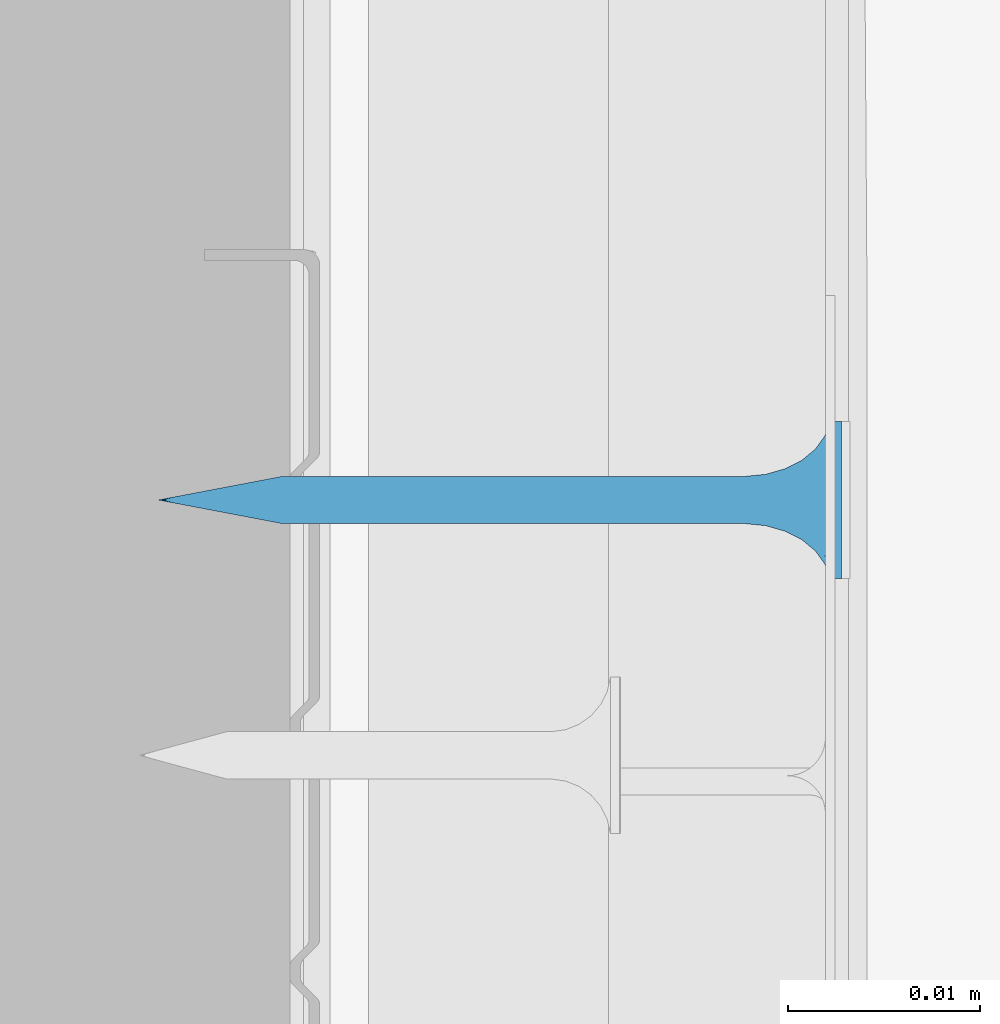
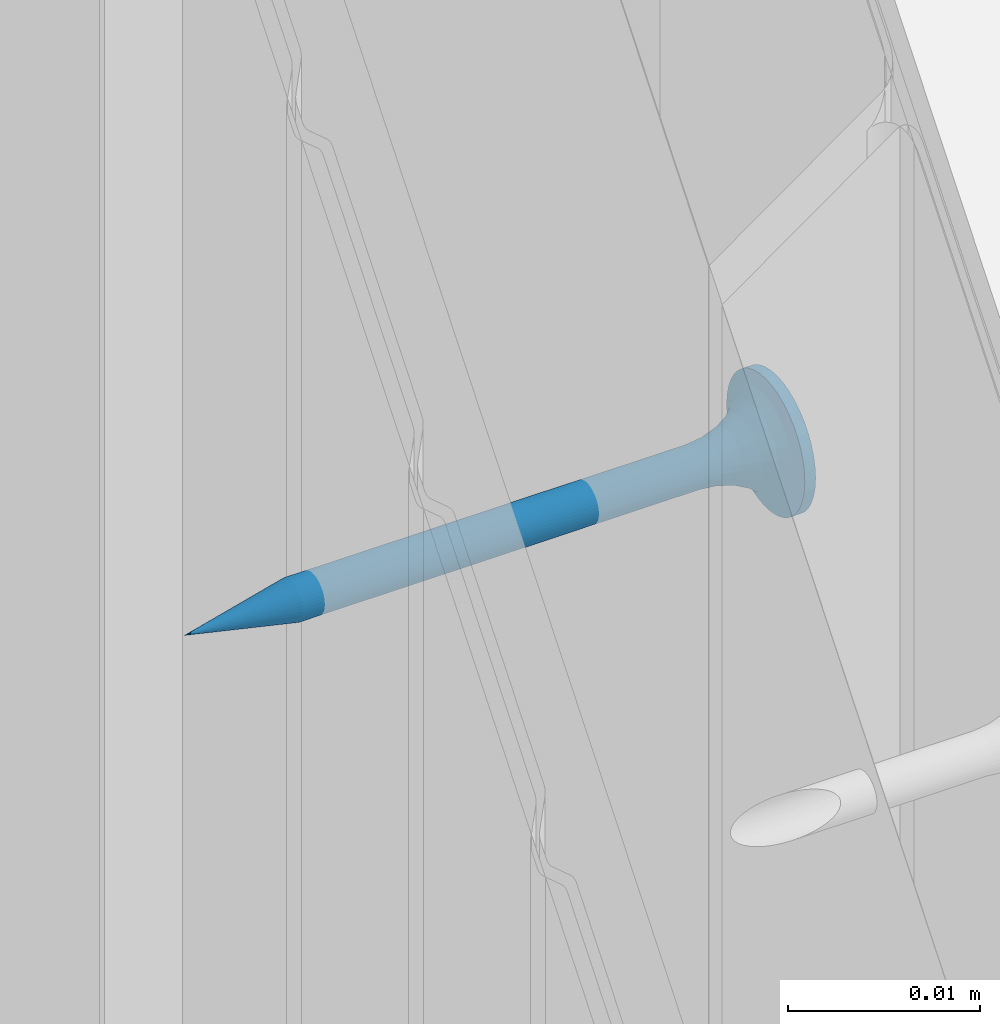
# One storey, part 28 of 92: 1 wall.
"""IFC2X3 building model written with IfcOpenShell, lengths in millimetres."""

from ifc_helpers import new_model, si_unit, frame, origin_with_axes, place, context, subcontext, project, spatial, faceted_brep, material, type_object, element, save


model = new_model("IFC2X3")

# Units and contexts
model_context = context("Model", 3, world=origin_with_axes())
body_context = subcontext(model_context, "Body", "Model", "MODEL_VIEW")
ifc_project = project(units=[si_unit("LENGTHUNIT", "METRE", prefix="MILLI"), si_unit("AREAUNIT", "SQUARE_METRE"), si_unit("VOLUMEUNIT", "CUBIC_METRE")], contexts=[model_context])

# Site, building, storey
site_placement = place(None, origin_with_axes())
site = spatial("IfcSite", under=ifc_project, at=site_placement, Name="Default Site", CompositionType="ELEMENT")
building_placement = place(site_placement, origin_with_axes())
building = spatial("IfcBuilding", under=site, at=building_placement, Name="Default Building", CompositionType="ELEMENT")
storey_placement = place(building_placement, origin_with_axes())
storey = spatial("IfcBuildingStorey", under=building, at=storey_placement, Name="Default Building Storey", CompositionType="ELEMENT", Elevation=0.0)

# Wall
ifc_material = material(Name="Default")
wall_type = type_object("IfcWallType", Name="Wkręt RIGIPS TN 35#41", PredefinedType="NOTDEFINED")
wall_placement = place(storey_placement, frame((-4679.6018790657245, 888.4383277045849, -153.3055844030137), z_axis=(0.0, 0.0, 1.0), x_axis=(4.0245584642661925e-16, 1.0, 0.0)))
element("IfcWall", 1, at=wall_placement, inside=storey, type_object=wall_type, material=ifc_material, Name="Wkręt RIGIPS TN 35", context=body_context, shape_type="Brep", body=[
    faceted_brep([(-141.48753293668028, -4832.598052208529, 555.1619773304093), (-141.48753293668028, -4833.259714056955, 555.1619773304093), (-141.5377465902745, -4833.259714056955, 555.8000000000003), (-141.5377465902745, -4832.598052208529, 555.8000000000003), (-141.33812900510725, -4832.598052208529, 554.5396649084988), (-141.33812900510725, -4833.259714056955, 554.5396649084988), (-141.0932132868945, -4832.598052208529, 553.948386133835), (-141.0932132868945, -4833.259714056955, 553.948386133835), (-140.75881656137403, -4832.598052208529, 553.4027002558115), (-140.75881656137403, -4833.259714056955, 553.4027002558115), (-140.3431726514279, -4833.259714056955, 552.9160436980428), (-140.45417279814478, -4832.598052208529, 553.0314906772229), (-139.8565160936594, -4833.259714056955, 552.5003997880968), (-140.10800974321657, -4832.598052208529, 552.6986613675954), (-139.72512626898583, -4832.598052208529, 552.4088260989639), (-139.31083021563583, -4833.259714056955, 552.1660030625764), (-139.31083021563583, -4832.598052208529, 552.1660030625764), (-138.71955144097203, -4833.259714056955, 551.9210873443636), (-138.87086516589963, -4832.598052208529, 551.9735585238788), (-138.41133029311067, -4832.598052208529, 551.8341602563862), (-138.09723901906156, -4833.259714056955, 551.7716834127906), (-137.9385961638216, -4832.598052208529, 551.74974052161), (-137.45921634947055, -4833.259714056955, 551.7214697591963), (-137.45921634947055, -4832.598052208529, 551.7214697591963), (-136.82119367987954, -4832.598052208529, 551.7716834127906), (-136.82119367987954, -4833.259714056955, 551.7716834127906), (-136.19888125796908, -4832.598052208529, 551.9210873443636), (-136.19888125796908, -4833.259714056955, 551.9210873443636), (-135.60760248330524, -4832.598052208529, 552.1660030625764), (-135.60760248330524, -4833.259714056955, 552.1660030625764), (-135.0619166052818, -4832.598052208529, 552.5003997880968), (-135.0619166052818, -4833.259714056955, 552.5003997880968), (-134.5752600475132, -4832.598052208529, 552.9160436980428), (-134.5752600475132, -4833.259714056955, 552.9160436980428), (-134.15961613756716, -4832.598052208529, 553.4027002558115), (-134.15961613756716, -4833.259714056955, 553.4027002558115), (-133.8252194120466, -4832.598052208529, 553.948386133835), (-133.8252194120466, -4833.259714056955, 553.948386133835), (-133.58030369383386, -4832.598052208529, 554.5396649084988), (-133.58030369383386, -4833.259714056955, 554.5396649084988), (-133.3806861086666, -4833.259714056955, 555.8000000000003), (-133.3806861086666, -4832.598052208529, 555.8000000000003), (-133.4308997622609, -4832.598052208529, 556.4380226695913), (-133.4308997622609, -4833.259714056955, 556.4380226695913), (-133.4308997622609, -4833.259714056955, 555.1619773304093), (-133.4308997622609, -4832.598052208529, 555.1619773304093), (-133.58030369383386, -4832.598052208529, 557.0603350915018), (-133.58030369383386, -4833.259714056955, 557.0603350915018), (-133.8252194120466, -4832.598052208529, 557.6516138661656), (-133.8252194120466, -4833.259714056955, 557.6516138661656), (-134.15961613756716, -4832.598052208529, 558.1972997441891), (-134.15961613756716, -4833.259714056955, 558.1972997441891), (-134.5752600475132, -4832.598052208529, 558.6839563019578), (-134.5752600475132, -4833.259714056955, 558.6839563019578), (-135.0619166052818, -4832.598052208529, 559.0996002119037), (-135.0619166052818, -4833.259714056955, 559.0996002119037), (-135.60760248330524, -4832.598052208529, 559.4339969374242), (-135.60760248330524, -4833.259714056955, 559.4339969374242), (-136.19888125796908, -4832.598052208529, 559.6789126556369), (-136.19888125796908, -4833.259714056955, 559.6789126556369), (-136.82119367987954, -4832.598052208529, 559.82831658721), (-136.82119367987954, -4833.259714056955, 559.82831658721), (-137.45921634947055, -4832.598052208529, 559.8785302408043), (-137.45921634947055, -4833.259714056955, 559.8785302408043), (-138.09723901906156, -4832.598052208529, 559.82831658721), (-138.09723901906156, -4833.259714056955, 559.82831658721), (-138.71955144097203, -4832.598052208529, 559.6789126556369), (-138.71955144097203, -4833.259714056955, 559.6789126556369), (-139.31083021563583, -4832.598052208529, 559.4339969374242), (-139.31083021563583, -4833.259714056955, 559.4339969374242), (-139.8565160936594, -4832.598052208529, 559.0996002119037), (-139.8565160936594, -4833.259714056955, 559.0996002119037), (-140.3431726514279, -4832.598052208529, 558.6839563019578), (-140.3431726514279, -4833.259714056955, 558.6839563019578), (-140.75881656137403, -4832.598052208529, 558.1972997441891), (-140.75881656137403, -4833.259714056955, 558.1972997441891), (-141.0932132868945, -4832.598052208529, 557.6516138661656), (-141.0932132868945, -4833.259714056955, 557.6516138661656), (-141.33812900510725, -4832.598052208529, 557.0603350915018), (-141.33812900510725, -4833.259714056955, 557.0603350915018), (-141.48753293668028, -4832.598052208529, 556.4380226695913), (-141.48753293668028, -4833.259714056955, 556.4380226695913), (-137.65172779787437, -4828.206294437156, 554.5845305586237), (-137.45921634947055, -4828.206294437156, 554.5693795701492), (-137.806061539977, -4829.281368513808, 554.5055561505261), (-137.45921634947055, -4829.281368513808, 554.4598930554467), (-137.8394989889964, -4828.206294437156, 554.6296104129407), (-138.12926982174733, -4829.281368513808, 554.6394333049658), (-138.0179063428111, -4828.206294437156, 554.7035091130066), (-138.18255689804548, -4828.206294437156, 554.8044072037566), (-138.40681506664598, -4829.281368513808, 554.8524012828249), (-138.32939643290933, -4828.206294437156, 554.9298199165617), (-138.4548091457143, -4828.206294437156, 555.0766594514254), (-138.61978304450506, -4829.281368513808, 555.1299465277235), (-138.55570723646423, -4828.206294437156, 555.2413100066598), (-138.75366019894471, -4829.281368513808, 555.4531548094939), (-138.62960593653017, -4828.206294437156, 555.4197173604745), (-138.67468579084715, -4828.206294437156, 555.6074885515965), (-138.79932329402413, -4829.281368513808, 555.7999999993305), (-138.68983677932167, -4828.206294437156, 555.8000000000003), (-138.67468579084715, -4828.206294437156, 555.9925114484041), (-138.75366019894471, -4829.281368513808, 556.1468451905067), (-138.62960593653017, -4828.206294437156, 556.1802826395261), (-138.61978304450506, -4829.281368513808, 556.4700534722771), (-138.55570723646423, -4828.206294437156, 556.3586899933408), (-138.4548091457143, -4828.206294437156, 556.5233405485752), (-138.40681506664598, -4829.281368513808, 556.7475987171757), (-138.32939643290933, -4828.206294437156, 556.6701800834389), (-138.18255689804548, -4828.206294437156, 556.795592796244), (-138.12926982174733, -4829.281368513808, 556.9605666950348), (-138.0179063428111, -4828.206294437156, 556.896490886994), (-137.806061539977, -4829.281368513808, 557.0944438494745), (-137.8394989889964, -4828.206294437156, 556.9703895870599), (-137.65172779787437, -4828.206294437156, 557.0154694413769), (-137.45921634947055, -4829.281368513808, 557.1401069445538), (-137.45921634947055, -4828.206294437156, 557.0306204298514), (-137.26670490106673, -4828.206294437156, 557.0154694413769), (-137.11237115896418, -4829.281368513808, 557.0944438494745), (-137.0789337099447, -4828.206294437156, 556.9703895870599), (-136.78916287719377, -4829.281368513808, 556.9605666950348), (-136.9005263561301, -4828.206294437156, 556.896490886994), (-136.73587580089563, -4828.206294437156, 556.795592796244), (-136.51161763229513, -4829.281368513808, 556.7475987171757), (-136.58903626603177, -4828.206294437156, 556.6701800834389), (-136.4636235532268, -4828.206294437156, 556.5233405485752), (-136.29864965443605, -4829.281368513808, 556.4700534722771), (-136.36272546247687, -4828.206294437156, 556.3586899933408), (-136.1647724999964, -4829.281368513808, 556.1468451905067), (-136.28882676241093, -4828.206294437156, 556.1802826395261), (-136.24374690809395, -4828.206294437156, 555.9925114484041), (-136.11910940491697, -4829.281368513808, 555.7999999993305), (-136.22859591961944, -4828.206294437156, 555.8000000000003), (-136.24374690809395, -4828.206294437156, 555.6074885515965), (-136.1647724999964, -4829.281368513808, 555.4531548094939), (-136.28882676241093, -4828.206294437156, 555.4197173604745), (-136.29864965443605, -4829.281368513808, 555.1299465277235), (-136.36272546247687, -4828.206294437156, 555.2413100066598), (-136.4636235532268, -4828.206294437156, 555.0766594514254), (-136.51161763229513, -4829.281368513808, 554.8524012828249), (-136.58903626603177, -4828.206294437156, 554.9298199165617), (-136.73587580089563, -4828.206294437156, 554.8044072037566), (-136.78916287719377, -4829.281368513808, 554.6394333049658), (-136.9005263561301, -4828.206294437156, 554.7035091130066), (-137.11237115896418, -4829.281368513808, 554.5055561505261), (-137.0789337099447, -4828.206294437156, 554.6296104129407), (-137.26670490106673, -4828.206294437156, 554.5845305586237), (-137.45921634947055, -4830.288222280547, 554.1737111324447), (-137.8801308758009, -4830.288222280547, 554.2291255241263), (-138.27236078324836, -4830.288222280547, 554.3915925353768), (-138.6091762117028, -4830.288222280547, 554.6500401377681), (-138.867623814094, -4830.288222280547, 554.9868555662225), (-139.0300908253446, -4830.288222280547, 555.37908547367), (-139.0855052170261, -4830.288222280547, 555.7999999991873), (-139.0300908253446, -4830.288222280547, 556.2209145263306), (-138.867623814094, -4830.288222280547, 556.6131444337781), (-138.6091762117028, -4830.288222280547, 556.9499598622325), (-138.27236078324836, -4830.288222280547, 557.2084074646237), (-137.8801308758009, -4830.288222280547, 557.3708744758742), (-137.45921634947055, -4830.288222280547, 557.4262888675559), (-137.03830182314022, -4830.288222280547, 557.3708744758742), (-136.64607191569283, -4830.288222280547, 557.2084074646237), (-136.30925648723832, -4830.288222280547, 556.9499598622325), (-136.0508088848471, -4830.288222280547, 556.6131444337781), (-135.88834187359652, -4830.288222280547, 556.2209145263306), (-135.832927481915, -4830.288222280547, 555.7999999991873), (-135.88834187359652, -4830.288222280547, 555.37908547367), (-136.0508088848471, -4830.288222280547, 554.9868555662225), (-136.30925648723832, -4830.288222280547, 554.6500401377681), (-136.64607191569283, -4830.288222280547, 554.3915925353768), (-137.03830182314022, -4830.288222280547, 554.2291255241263), (-137.45921634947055, -4831.168773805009, 553.7273430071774), (-137.99565943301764, -4831.168773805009, 553.7979670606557), (-138.49554484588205, -4831.168773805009, 554.0050264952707), (-138.9248060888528, -4831.168773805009, 554.334410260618), (-139.25418985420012, -4831.168773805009, 554.7636715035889), (-139.4612492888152, -4831.168773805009, 555.2635569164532), (-139.53187334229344, -4831.168773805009, 555.7999999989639), (-139.4612492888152, -4831.168773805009, 556.3364430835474), (-139.25418985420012, -4831.168773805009, 556.8363284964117), (-138.9248060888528, -4831.168773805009, 557.2655897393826), (-138.49554484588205, -4831.168773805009, 557.5949735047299), (-137.99565943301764, -4831.168773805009, 557.8020329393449), (-137.45921634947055, -4831.168773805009, 557.8726569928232), (-136.92277326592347, -4831.168773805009, 557.8020329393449), (-136.42288785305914, -4831.168773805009, 557.5949735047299), (-135.9936266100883, -4831.168773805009, 557.2655897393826), (-135.66424284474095, -4831.168773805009, 556.8363284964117), (-135.4571834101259, -4831.168773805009, 556.3364430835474), (-135.38655935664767, -4831.168773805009, 555.7999999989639), (-135.4571834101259, -4831.168773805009, 555.2635569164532), (-135.66424284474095, -4831.168773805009, 554.7636715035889), (-135.9936266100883, -4831.168773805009, 554.334410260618), (-136.42288785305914, -4831.168773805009, 554.0050264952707), (-136.92277326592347, -4831.168773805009, 553.7979670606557), (-137.45921634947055, -4831.872222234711, 553.1465392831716), (-138.14598252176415, -4831.872222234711, 553.2369539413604), (-138.78594670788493, -4831.872222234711, 553.5020355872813), (-139.33549641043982, -4831.872222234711, 553.923719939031), (-139.75718076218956, -4831.872222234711, 554.473269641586), (-140.02226240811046, -4831.872222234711, 555.1132338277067), (-140.11267706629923, -4831.872222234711, 555.7999999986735), (-140.02226240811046, -4831.872222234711, 556.4867661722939), (-139.75718076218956, -4831.872222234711, 557.1267303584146), (-139.33549641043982, -4831.872222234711, 557.6762800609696), (-138.78594670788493, -4831.872222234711, 558.0979644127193), (-138.14598252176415, -4831.872222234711, 558.3630460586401), (-137.45921634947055, -4831.872222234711, 558.453460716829), (-136.77245017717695, -4831.872222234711, 558.3630460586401), (-136.13248599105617, -4831.872222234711, 558.0979644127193), (-135.58293628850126, -4831.872222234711, 557.6762800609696), (-135.16125193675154, -4831.872222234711, 557.1267303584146), (-134.89617029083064, -4831.872222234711, 556.4867661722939), (-134.80575563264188, -4831.872222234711, 555.7999999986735), (-134.89617029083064, -4831.872222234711, 555.1132338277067), (-135.16125193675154, -4831.872222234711, 554.473269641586), (-135.58293628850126, -4831.872222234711, 553.923719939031), (-136.13248599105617, -4831.872222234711, 553.5020355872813), (-136.77245017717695, -4831.872222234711, 553.2369539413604), (-137.45921634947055, -4832.357990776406, 552.4648055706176), (-138.3224281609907, -4832.357990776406, 552.5784495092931), (-139.12681356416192, -4832.357990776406, 552.9116369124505), (-139.81755491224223, -4832.357990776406, 553.4416614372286), (-140.34757943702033, -4832.357990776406, 554.132402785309), (-140.6807668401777, -4832.357990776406, 554.9367881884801), (-140.7944107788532, -4832.357990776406, 555.7999999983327), (-140.6807668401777, -4832.357990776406, 556.6632118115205), (-140.34757943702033, -4832.357990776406, 557.4675972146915), (-139.81755491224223, -4832.357990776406, 558.158338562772), (-139.12681356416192, -4832.357990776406, 558.6883630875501), (-138.3224281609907, -4832.357990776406, 559.0215504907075), (-137.45921634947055, -4832.357990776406, 559.135194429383), (-136.5960045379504, -4832.357990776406, 559.0215504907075), (-135.79161913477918, -4832.357990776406, 558.6883630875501), (-135.10087778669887, -4832.357990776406, 558.158338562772), (-134.57085326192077, -4832.357990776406, 557.4675972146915), (-134.2376658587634, -4832.357990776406, 556.6632118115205), (-134.12402192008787, -4832.357990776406, 555.7999999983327), (-134.2376658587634, -4832.357990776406, 554.9367881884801), (-134.57085326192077, -4832.357990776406, 554.132402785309), (-135.10087778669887, -4832.357990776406, 553.4416614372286), (-135.79161913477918, -4832.357990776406, 552.9116369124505), (-136.5960045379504, -4832.357990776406, 552.5784495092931), (-138.67468579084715, -4804.0937578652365, 555.6074885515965), (-138.68983677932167, -4804.0937578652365, 555.8000000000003), (-138.62960593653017, -4804.0937578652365, 555.4197173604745), (-138.55570723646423, -4804.0937578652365, 555.2413100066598), (-138.4548091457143, -4804.0937578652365, 555.0766594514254), (-138.32939643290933, -4804.0937578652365, 554.9298199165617), (-138.18255689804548, -4804.0937578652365, 554.8044072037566), (-138.01790634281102, -4804.0937578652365, 554.7035091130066), (-137.8394989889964, -4804.0937578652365, 554.6296104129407), (-137.65172779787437, -4804.0937578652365, 554.5845305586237), (-137.45921634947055, -4804.0937578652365, 554.5693795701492), (-137.26670490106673, -4804.0937578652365, 554.5845305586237), (-137.0789337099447, -4804.0937578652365, 554.6296104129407), (-136.90052635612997, -4804.0937578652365, 554.7035091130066), (-136.73587580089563, -4804.0937578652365, 554.8044072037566), (-136.58903626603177, -4804.0937578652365, 554.9298199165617), (-136.4636235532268, -4804.0937578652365, 555.0766594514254), (-136.36272546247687, -4804.0937578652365, 555.2413100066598), (-136.28882676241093, -4804.0937578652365, 555.4197173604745), (-136.22859591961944, -4804.0937578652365, 555.8000000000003), (-136.24374690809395, -4804.0937578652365, 555.9925114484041), (-136.24374690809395, -4804.0937578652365, 555.6074885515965), (-136.28882676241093, -4804.0937578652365, 556.1802826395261), (-136.36272546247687, -4804.0937578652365, 556.3586899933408), (-136.4636235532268, -4804.0937578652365, 556.5233405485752), (-136.58903626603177, -4804.0937578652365, 556.6701800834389), (-136.73587580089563, -4804.0937578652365, 556.795592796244), (-136.90052635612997, -4804.0937578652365, 556.896490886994), (-137.0789337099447, -4804.0937578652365, 556.9703895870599), (-137.26670490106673, -4804.0937578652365, 557.0154694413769), (-137.45921634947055, -4804.0937578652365, 557.0306204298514), (-137.65172779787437, -4804.0937578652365, 557.0154694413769), (-137.8394989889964, -4804.0937578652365, 556.9703895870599), (-138.01790634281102, -4804.0937578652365, 556.896490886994), (-138.18255689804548, -4804.0937578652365, 556.795592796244), (-138.32939643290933, -4804.0937578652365, 556.6701800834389), (-138.4548091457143, -4804.0937578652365, 556.5233405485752), (-138.55570723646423, -4804.0937578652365, 556.3586899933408), (-138.62960593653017, -4804.0937578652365, 556.1802826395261), (-138.67468579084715, -4804.0937578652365, 555.9925114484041), (-137.45921634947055, -4797.627062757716, 555.8000000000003), (-139.95921629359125, -4833.259714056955, 555.2999999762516), (-139.95921629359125, -4833.259714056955, 556.300000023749), (-137.95921637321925, -4833.259714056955, 556.300000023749), (-137.95921637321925, -4833.259714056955, 558.2999999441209), (-136.95921632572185, -4833.259714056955, 558.2999999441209), (-136.95921632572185, -4833.259714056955, 556.300000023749), (-134.95921640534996, -4833.259714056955, 556.300000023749), (-134.95921640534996, -4833.259714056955, 555.2999999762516), (-136.95921632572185, -4833.259714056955, 555.2999999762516), (-136.95921632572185, -4833.259714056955, 553.3000000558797), (-137.95921637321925, -4833.259714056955, 553.3000000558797), (-137.95921637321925, -4833.259714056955, 555.2999999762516), (-136.95921632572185, -4832.688378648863, 558.2999999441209), (-137.95921637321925, -4832.688378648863, 558.2999999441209), (-137.95921637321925, -4832.688378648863, 556.300000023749), (-139.95921629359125, -4832.688378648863, 556.300000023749), (-139.95921629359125, -4832.688378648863, 555.2999999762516), (-137.95921637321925, -4832.688378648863, 555.2999999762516), (-137.95921637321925, -4832.688378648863, 553.3000000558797), (-136.95921632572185, -4832.688378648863, 553.3000000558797), (-136.95921632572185, -4832.688378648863, 555.2999999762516), (-134.95921640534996, -4832.688378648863, 555.2999999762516), (-134.95921640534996, -4832.688378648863, 556.300000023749), (-136.95921632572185, -4832.688378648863, 556.300000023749)], [[[0, 1, 2, 3]], [[1, 0, 4, 5]], [[5, 4, 6, 7]], [[8, 9, 7, 6]], [[8, 10, 9]], [[8, 11, 10]], [[12, 11, 13]], [[12, 10, 11]], [[13, 14, 12]], [[14, 15, 12]], [[14, 16, 15]], [[17, 16, 18]], [[17, 15, 16]], [[18, 19, 17]], [[20, 19, 21]], [[20, 17, 19]], [[21, 22, 20]], [[21, 23, 22]], [[24, 25, 22, 23]], [[25, 24, 26, 27]], [[27, 26, 28, 29]], [[30, 31, 29, 28]], [[31, 30, 32, 33]], [[34, 35, 33, 32]], [[35, 34, 36, 37]], [[37, 36, 38, 39]], [[40, 41, 42, 43]], [[44, 45, 41, 40]], [[45, 44, 39, 38]], [[43, 42, 46, 47]], [[47, 46, 48, 49]], [[50, 51, 49, 48]], [[51, 50, 52, 53]], [[54, 55, 53, 52]], [[55, 54, 56, 57]], [[57, 56, 58, 59]], [[60, 61, 59, 58]], [[61, 60, 62, 63]], [[64, 65, 63, 62]], [[65, 64, 66, 67]], [[67, 66, 68, 69]], [[70, 71, 69, 68]], [[71, 70, 72, 73]], [[74, 75, 73, 72]], [[75, 74, 76, 77]], [[77, 76, 78, 79]], [[80, 81, 79, 78]], [[81, 80, 3, 2]], [[82, 83, 84]], [[83, 85, 84]], [[84, 86, 82]], [[84, 87, 88, 86]], [[89, 88, 87]], [[87, 90, 89]], [[90, 91, 89]], [[92, 91, 93]], [[91, 90, 93]], [[93, 94, 92]], [[93, 95, 96, 94]], [[97, 96, 95]], [[95, 98, 97]], [[98, 99, 97]], [[100, 99, 101]], [[99, 98, 101]], [[101, 102, 100]], [[101, 103, 104, 102]], [[105, 104, 103]], [[103, 106, 105]], [[106, 107, 105]], [[108, 107, 109]], [[107, 106, 109]], [[109, 110, 108]], [[109, 111, 112, 110]], [[113, 112, 111]], [[111, 114, 113]], [[114, 115, 113]], [[116, 115, 117]], [[115, 114, 117]], [[117, 118, 116]], [[117, 119, 120, 118]], [[121, 120, 119]], [[119, 122, 121]], [[122, 123, 121]], [[124, 123, 125]], [[123, 122, 125]], [[125, 126, 124]], [[125, 127, 128, 126]], [[129, 128, 127]], [[127, 130, 129]], [[130, 131, 129]], [[132, 131, 133]], [[131, 130, 133]], [[133, 134, 132]], [[133, 135, 136, 134]], [[137, 136, 135]], [[135, 138, 137]], [[138, 139, 137]], [[140, 139, 141]], [[139, 138, 141]], [[141, 142, 140]], [[141, 143, 144, 142]], [[145, 144, 143]], [[143, 85, 145]], [[85, 83, 145]], [[146, 147, 84, 85]], [[84, 147, 148, 87]], [[87, 148, 149, 90]], [[90, 149, 150, 93]], [[93, 150, 151, 95]], [[95, 151, 152, 98]], [[98, 152, 153, 101]], [[101, 153, 154, 103]], [[103, 154, 155, 106]], [[106, 155, 156, 109]], [[109, 156, 157, 111]], [[111, 157, 158, 114]], [[114, 158, 159, 117]], [[117, 159, 160, 119]], [[119, 160, 161, 122]], [[122, 161, 162, 125]], [[125, 162, 163, 127]], [[127, 163, 164, 130]], [[130, 164, 165, 133]], [[133, 165, 166, 135]], [[135, 166, 167, 138]], [[138, 167, 168, 141]], [[141, 168, 169, 143]], [[143, 169, 146, 85]], [[170, 171, 147, 146]], [[147, 171, 172, 148]], [[148, 172, 173, 149]], [[149, 173, 174, 150]], [[150, 174, 175, 151]], [[151, 175, 176, 152]], [[152, 176, 177, 153]], [[153, 177, 178, 154]], [[154, 178, 179, 155]], [[155, 179, 180, 156]], [[156, 180, 181, 157]], [[157, 181, 182, 158]], [[158, 182, 183, 159]], [[159, 183, 184, 160]], [[160, 184, 185, 161]], [[161, 185, 186, 162]], [[162, 186, 187, 163]], [[163, 187, 188, 164]], [[164, 188, 189, 165]], [[165, 189, 190, 166]], [[166, 190, 191, 167]], [[167, 191, 192, 168]], [[168, 192, 193, 169]], [[169, 193, 170, 146]], [[194, 195, 171, 170]], [[171, 195, 196, 172]], [[172, 196, 197, 173]], [[173, 197, 198, 174]], [[174, 198, 199, 175]], [[175, 199, 200, 176]], [[176, 200, 201, 177]], [[177, 201, 202, 178]], [[178, 202, 203, 179]], [[179, 203, 204, 180]], [[180, 204, 205, 181]], [[181, 205, 206, 182]], [[182, 206, 207, 183]], [[183, 207, 208, 184]], [[184, 208, 209, 185]], [[185, 209, 210, 186]], [[186, 210, 211, 187]], [[187, 211, 212, 188]], [[188, 212, 213, 189]], [[189, 213, 214, 190]], [[190, 214, 215, 191]], [[191, 215, 216, 192]], [[192, 216, 217, 193]], [[193, 217, 194, 170]], [[21, 19, 218]], [[19, 219, 218]], [[218, 23, 21]], [[218, 219, 195, 194]], [[18, 16, 219]], [[16, 220, 219]], [[219, 19, 18]], [[195, 219, 220, 196]], [[13, 11, 221]], [[14, 13, 220]], [[13, 221, 220]], [[220, 16, 14]], [[196, 220, 221, 197]], [[8, 6, 222]], [[222, 221, 8]], [[221, 11, 8]], [[197, 221, 222, 198]], [[4, 223, 222, 6]], [[198, 222, 223, 199]], [[0, 3, 223]], [[3, 224, 223]], [[223, 4, 0]], [[199, 223, 224, 200]], [[80, 78, 225]], [[225, 224, 80]], [[224, 3, 80]], [[200, 224, 225, 201]], [[78, 76, 226, 225]], [[201, 225, 226, 202]], [[74, 72, 226]], [[72, 227, 226]], [[226, 76, 74]], [[202, 226, 227, 203]], [[70, 68, 228]], [[228, 227, 70]], [[227, 72, 70]], [[203, 227, 228, 204]], [[68, 66, 229, 228]], [[204, 228, 229, 205]], [[64, 62, 229]], [[62, 230, 229]], [[229, 66, 64]], [[205, 229, 230, 206]], [[60, 58, 231]], [[231, 230, 60]], [[230, 62, 60]], [[206, 230, 231, 207]], [[58, 56, 232, 231]], [[207, 231, 232, 208]], [[54, 52, 232]], [[52, 233, 232]], [[232, 56, 54]], [[208, 232, 233, 209]], [[50, 48, 234]], [[234, 233, 50]], [[233, 52, 50]], [[209, 233, 234, 210]], [[48, 46, 235, 234]], [[210, 234, 235, 211]], [[42, 41, 235]], [[41, 236, 235]], [[235, 46, 42]], [[211, 235, 236, 212]], [[45, 38, 237]], [[237, 236, 45]], [[236, 41, 45]], [[212, 236, 237, 213]], [[36, 238, 237, 38]], [[213, 237, 238, 214]], [[34, 32, 238]], [[32, 239, 238]], [[238, 36, 34]], [[214, 238, 239, 215]], [[30, 28, 240]], [[240, 239, 30]], [[239, 32, 30]], [[215, 239, 240, 216]], [[26, 241, 240, 28]], [[216, 240, 241, 217]], [[217, 241, 218, 194]], [[24, 23, 241]], [[23, 218, 241]], [[241, 26, 24]], [[242, 97, 99, 243]], [[97, 242, 244, 96]], [[96, 244, 245, 94]], [[246, 92, 94, 245]], [[92, 246, 247, 91]], [[248, 89, 91, 247]], [[89, 248, 249, 88]], [[88, 249, 250, 86]], [[251, 82, 86, 250]], [[82, 251, 252, 83]], [[253, 145, 83, 252]], [[145, 253, 254, 144]], [[144, 254, 255, 142]], [[256, 140, 142, 255]], [[140, 256, 257, 139]], [[258, 137, 139, 257]], [[137, 258, 259, 136]], [[136, 259, 260, 134]], [[131, 261, 262, 129]], [[132, 263, 261, 131]], [[263, 132, 134, 260]], [[129, 262, 264, 128]], [[128, 264, 265, 126]], [[266, 124, 126, 265]], [[124, 266, 267, 123]], [[268, 121, 123, 267]], [[121, 268, 269, 120]], [[120, 269, 270, 118]], [[271, 116, 118, 270]], [[116, 271, 272, 115]], [[273, 113, 115, 272]], [[113, 273, 274, 112]], [[112, 274, 275, 110]], [[276, 108, 110, 275]], [[108, 276, 277, 107]], [[278, 105, 107, 277]], [[105, 278, 279, 104]], [[104, 279, 280, 102]], [[281, 100, 102, 280]], [[100, 281, 243, 99]], [[282, 244, 242]], [[242, 243, 282]], [[282, 245, 244]], [[282, 247, 246]], [[246, 245, 282]], [[282, 249, 248]], [[248, 247, 282]], [[282, 250, 249]], [[282, 252, 251]], [[251, 250, 282]], [[282, 254, 253]], [[253, 252, 282]], [[282, 255, 254]], [[282, 257, 256]], [[256, 255, 282]], [[282, 259, 258]], [[258, 257, 282]], [[282, 260, 259]], [[282, 261, 263]], [[263, 260, 282]], [[282, 264, 262]], [[262, 261, 282]], [[282, 265, 264]], [[282, 267, 266]], [[266, 265, 282]], [[282, 269, 268]], [[268, 267, 282]], [[282, 270, 269]], [[282, 272, 271]], [[271, 270, 282]], [[282, 274, 273]], [[273, 272, 282]], [[282, 275, 274]], [[282, 277, 276]], [[276, 275, 282]], [[282, 279, 278]], [[278, 277, 282]], [[282, 280, 279]], [[282, 243, 281]], [[281, 280, 282]], [[75, 77, 79, 81, 2, 1, 5, 7, 9, 10, 12, 15, 17, 20, 22, 25, 27, 29, 31, 33, 35, 37, 39, 44, 40, 43, 47, 49, 51, 53, 55, 57, 59, 61, 63, 65, 67, 69, 71, 73], [283, 284, 285, 286, 287, 288, 289, 290, 291, 292, 293, 294]], [[295, 296, 297, 298, 299, 300, 301, 302, 303, 304, 305, 306]], [[303, 291, 290, 304]], [[304, 290, 289, 305]], [[305, 289, 288, 306]], [[306, 288, 287, 295]], [[295, 287, 286, 296]], [[296, 286, 285, 297]], [[297, 285, 284, 298]], [[298, 284, 283, 299]], [[299, 283, 294, 300]], [[300, 294, 293, 301]], [[301, 293, 292, 302]], [[302, 292, 291, 303]]]),
])

save(model, "model.ifc")
